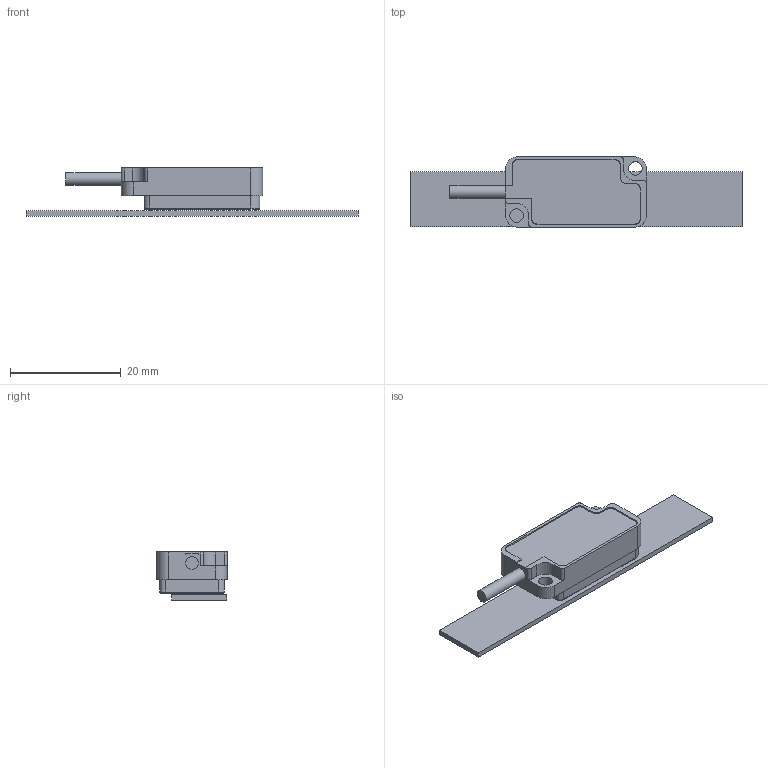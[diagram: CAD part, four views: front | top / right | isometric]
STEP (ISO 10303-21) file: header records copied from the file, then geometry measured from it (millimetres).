
FILE_DESCRIPTION(/* description */ (''),/* implementation_level */ '2;1');
FILE_NAME(/* name */ 'ELS-008.stp',/* time_stamp */ '2026-04-28T18:01:46+08:00',/* author */ (''),/* organization */ (''),/* preprocessor_version */ 'ST-DEVELOPER v20',/* originating_system */ 'SIEMENS PLM Software NX2312.1700',/* authorisation */ '');
FILE_SCHEMA (('AP203_CONFIGURATION_CONTROLLED_3D_DESIGN_OF_MECHANICAL_PARTS_AND_ASSEMBLIES_MIM_LF { 1 0 10303 403 2 1 2}'));
Length unit declared in the file: millimetre
Products named in the file (1): ELS-008_objects
Bounding box: 60 x 12.7 x 8.7 mm (x, y, z)
Volume: 2630.6 mm3; surface area: 2629.4 mm2
Topology: 2 solids, 2 shells, 89 faces, 238 edges, 155 vertices
Faces by surface type: plane 46, cylinder 37, torus 6
Full cylindrical faces by diameter (mm): 2.3 x1, 2.5 x2
Entity records: 2874 total; most frequent: DIRECTION 494, CARTESIAN_POINT 478, ORIENTED_EDGE 468, EDGE_CURVE 234, AXIS2_PLACEMENT_3D 170, VERTEX_POINT 154, LINE 154, VECTOR 154
